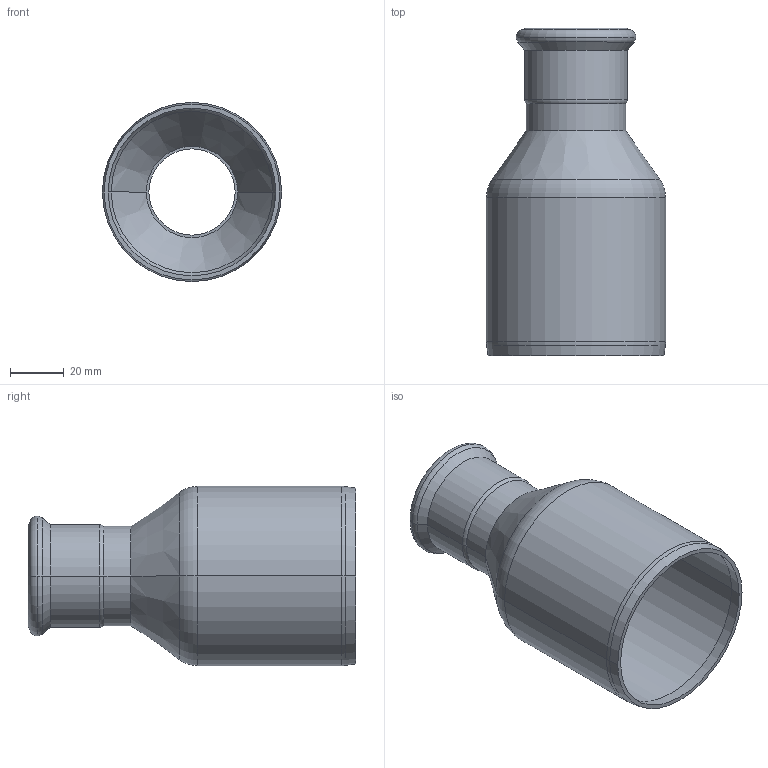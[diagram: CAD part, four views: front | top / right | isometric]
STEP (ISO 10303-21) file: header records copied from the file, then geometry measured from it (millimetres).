
FILE_DESCRIPTION(('CoCreate Modeling STEP Export'),'2;1');
FILE_NAME('C1407 67x35.stp','2014-10-23T15:44:01',(''),(''),'CoCreate Modeling STEP processor for AP214 (Solid Model)','CoCreate Modeling 17.00A 17-Jun-2010 (C) Parametric Technology GmbH','');
FILE_SCHEMA(('AUTOMOTIVE_DESIGN { 1 0 10303 214 1 1 1 1 }'));
Length unit declared in the file: millimetre
Products named in the file (1): Verloop_67x35mm
Bounding box: 66.7 x 122.01 x 66.7 mm (x, y, z)
Volume: 33923.4 mm3; surface area: 43637.7 mm2
Topology: 1 solids, 1 shells, 55 faces, 110 edges, 58 vertices
Faces by surface type: cone 18, torus 18, cylinder 16, plane 3
Entity records: 1158 total; most frequent: ORIENTED_EDGE 220, DIRECTION 186, CARTESIAN_POINT 168, EDGE_CURVE 110, AXIS2_PLACEMENT_3D 76, VERTEX_POINT 58, EDGE_LOOP 58, FACE_OUTER_BOUND 55
